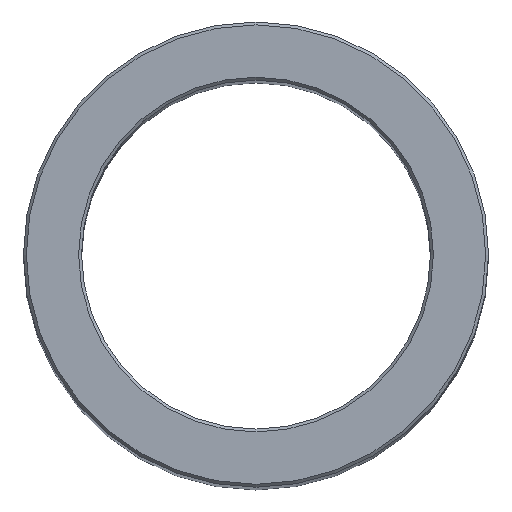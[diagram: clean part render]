
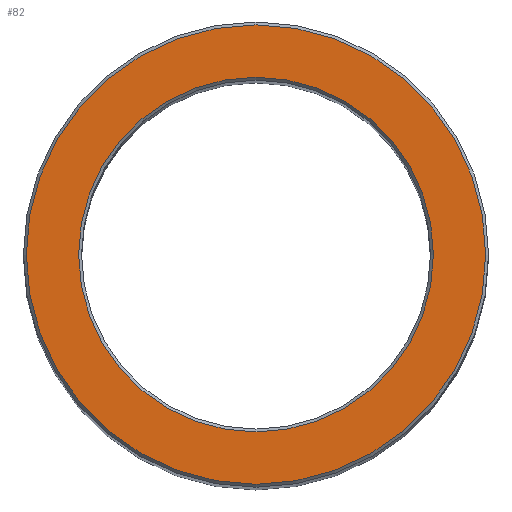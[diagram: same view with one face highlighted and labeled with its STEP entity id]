
A CAD part, top view. The second image highlights one B-rep face of the part: STEP entity #82.
In plain terms, the highlighted planar face has unit normal (0, 0, 1).
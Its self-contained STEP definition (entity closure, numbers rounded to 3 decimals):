
#82=ADVANCED_FACE('',(#105,#106),#107,.T.);
#105=FACE_OUTER_BOUND('',#129,.T.);
#106=FACE_BOUND('',#130,.T.);
#107=PLANE('',#131);
#129=EDGE_LOOP('',(#167));
#130=EDGE_LOOP('',(#168));
#131=AXIS2_PLACEMENT_3D('',#169,#170,#171);
#167=ORIENTED_EDGE('',*,*,#179,.T.);
#168=ORIENTED_EDGE('',*,*,#172,.T.);
#169=CARTESIAN_POINT('',(0.0,0.0,110.0));
#170=DIRECTION('',(0.0,0.0,1.0));
#171=DIRECTION('',(1.0,0.0,0.0));
#172=EDGE_CURVE('',#180,#180,#181,.F.);
#179=EDGE_CURVE('',#194,#194,#195,.T.);
#180=VERTEX_POINT('',#196);
#181=CIRCLE('',#197,12.2);
#194=VERTEX_POINT('',#210);
#195=CIRCLE('',#211,15.8);
#196=CARTESIAN_POINT('',(12.2,0.,110.0));
#197=AXIS2_PLACEMENT_3D('',#212,#213,#214);
#210=CARTESIAN_POINT('',(15.8,0.0,110.0));
#211=AXIS2_PLACEMENT_3D('',#233,#234,#235);
#212=CARTESIAN_POINT('',(0.0,0.0,110.0));
#213=DIRECTION('',(0.0,0.0,1.0));
#214=DIRECTION('',(1.0,0.0,0.0));
#233=CARTESIAN_POINT('',(0.0,0.0,110.0));
#234=DIRECTION('',(0.0,0.0,1.0));
#235=DIRECTION('',(1.0,0.0,0.0));
